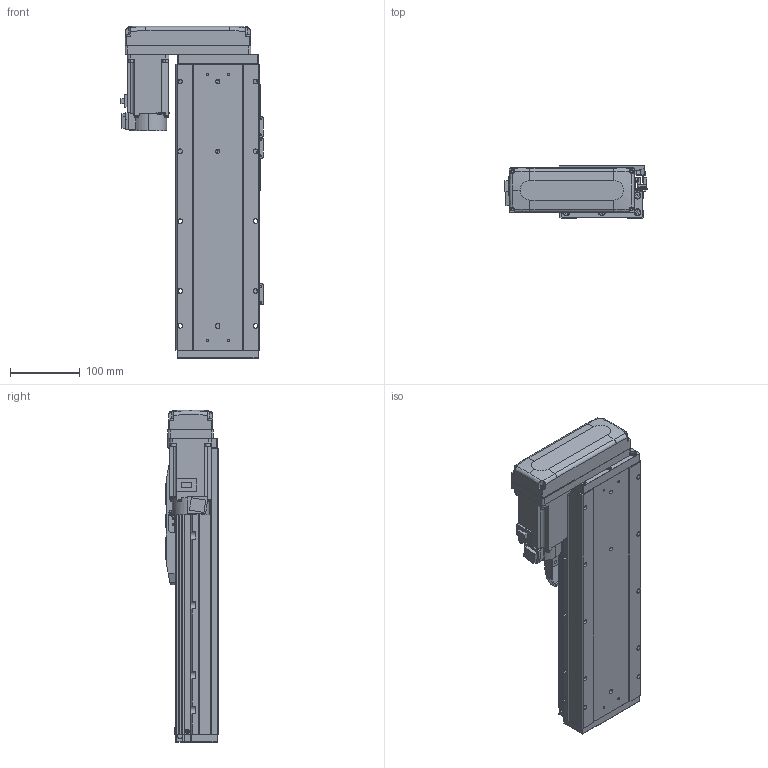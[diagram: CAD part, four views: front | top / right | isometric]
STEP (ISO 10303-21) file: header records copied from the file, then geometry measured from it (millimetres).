
FILE_DESCRIPTION (( 'STEP AP203' ), '1' );
FILE_NAME ('GTH12-200-BR-M40-C4.step', '2023-07-05T00:05:21', ( '微软用户' ), ( '微软中国' ), 'SwSTEP 2.0', 'SolidWorks 2020', '' );
FILE_SCHEMA (( 'CONFIG_CONTROL_DESIGN' ));
Length unit declared in the file: millimetre
Products named in the file (18): GBT 70.3-M3℅8; GTH120-006; hg-kn43j_-s100_; GTH80-022; GTH120-004; CTHA86-033_M40B; GTH80-028; GTH120-013; GTH120-027-1_GTH120-027-2; GTH50-023; GTH12-200-BR-M40-C4; GTH50-024; GBT 70.1-M3℅6; GTH120-001_200; GBT96.1-2002 3×0.8; GBT 70.1-M5×16; GTH120-003; BTH-M3X5X6
Assembly tree (59 placements, depth 2):
  GTH12-200-BR-M40-C4
    GTH120-001_200
    GTH120-003
    GTH120-006
    GTH120-004
    GTH120-013
    GBT 70.1-M3℅6  x14
    GBT 70.1-M5×16  x10
    GBT 70.3-M3℅8  x4
    GTH80-022
    GTH80-028  x2
    GTH50-023  x3
    GTH50-024  x3
    GBT96.1-2002 3×0.8  x6
    BTH-M3X5X6  x8
    hg-kn43j_-s100_
    CTHA86-033_M40B
    GTH120-027-1_GTH120-027-2
Bounding box: 203.5 x 76 x 475.5 mm (x, y, z)
Volume: 3952792.3 mm3; surface area: 447181.8 mm2
Topology: 61 solids, 61 shells, 2359 faces, 5472 edges, 3355 vertices
Faces by surface type: plane 1230, cylinder 665, cone 276, torus 174, sphere 8, bspline 6
Entity records: 42946 total; most frequent: CARTESIAN_POINT 7272, DIRECTION 7068, ORIENTED_EDGE 6554, EDGE_CURVE 3277, AXIS2_PLACEMENT_3D 2472, VECTOR 2124, LINE 2124, VERTEX_POINT 2076
